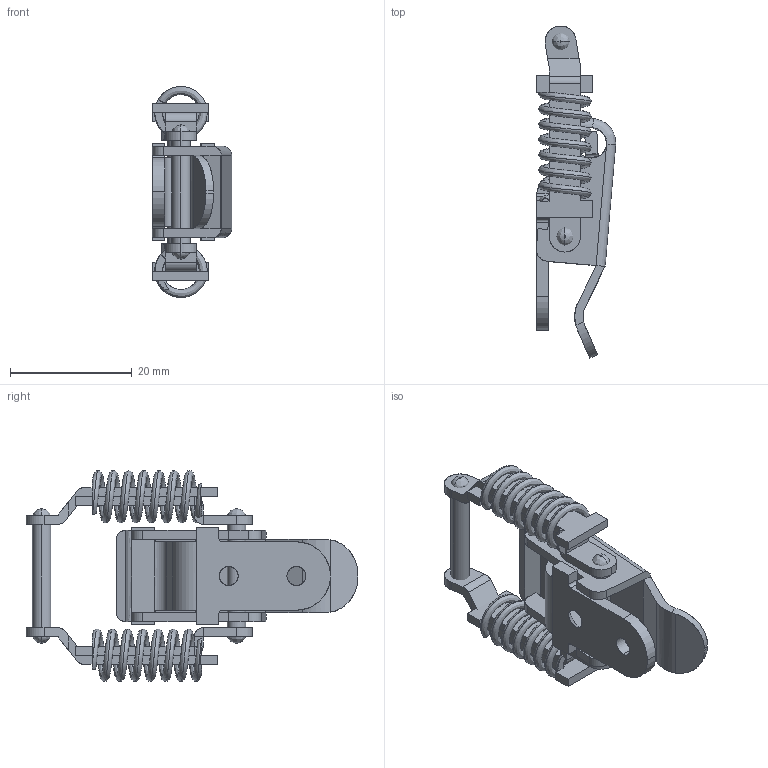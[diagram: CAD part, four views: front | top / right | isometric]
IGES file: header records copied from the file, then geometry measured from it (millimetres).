
Start section: SolidWorks IGES file using analytic representation for surfaces
Global section: file name: C:\Users\cbrechard\Desktop\GP 9\GP 9.IGS; native system: SolidWorks 2008; preprocessor: SolidWorks 2008; author: cbrechard; date: 130305.170639; units: millimetre
Bounding box: 13.01 x 54.47 x 34.6 mm (x, y, z)
Surface area: 6874.3 mm2 (no closed solid volume)
Topology: 0 solids, 0 shells, 269 faces, 2455 edges, 2396 vertices
Faces by surface type: bspline 147, revolution 122
